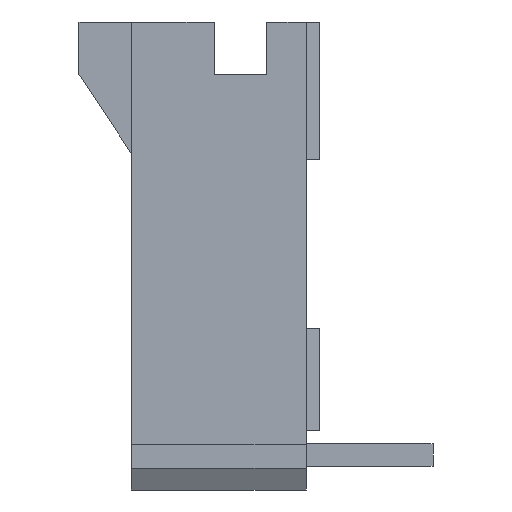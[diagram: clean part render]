
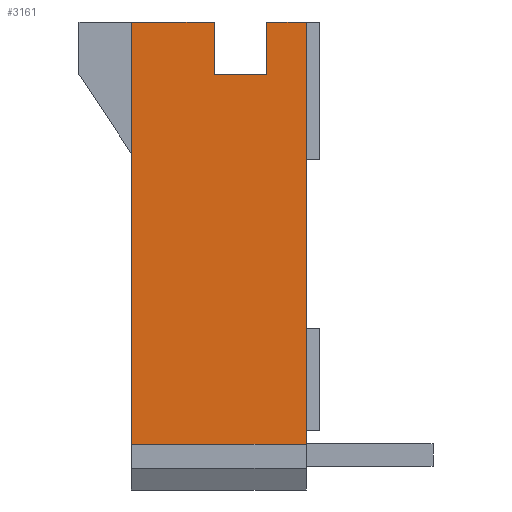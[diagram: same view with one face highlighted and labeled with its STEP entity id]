
A CAD part, left-side view. The second image highlights one B-rep face of the part: STEP entity #3161.
In plain terms, the highlighted planar face has unit normal (-1, 0, 0).
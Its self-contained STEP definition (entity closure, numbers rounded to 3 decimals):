
#134=DIRECTION('',(0.,0.,1.));
#135=VECTOR('',#134,1.52);
#136=CARTESIAN_POINT('',(-11.365,0.13,-1.52));
#137=LINE('',#136,#135);
#138=DIRECTION('',(0.,1.,0.));
#139=VECTOR('',#138,1.52);
#140=CARTESIAN_POINT('',(-11.365,-1.39,-1.52));
#141=LINE('',#140,#139);
#142=DIRECTION('',(0.,0.,-1.));
#143=VECTOR('',#142,1.52);
#144=CARTESIAN_POINT('',(-11.365,-1.39,0.));
#145=LINE('',#144,#143);
#146=DIRECTION('',(0.,-1.,0.));
#147=VECTOR('',#146,1.15);
#148=CARTESIAN_POINT('',(-11.365,-1.39,0.));
#149=LINE('',#148,#147);
#150=DIRECTION('',(0.,0.,-1.));
#151=VECTOR('',#150,12.255);
#152=CARTESIAN_POINT('',(-11.365,-2.54,0.));
#153=LINE('',#152,#151);
#154=DIRECTION('',(0.,1.,0.));
#155=VECTOR('',#154,5.08);
#156=CARTESIAN_POINT('',(-11.365,-2.54,-12.255));
#157=LINE('',#156,#155);
#158=DIRECTION('',(0.,-1.,0.));
#159=VECTOR('',#158,2.41);
#160=CARTESIAN_POINT('',(-11.365,2.54,0.));
#161=LINE('',#160,#159);
#2028=DIRECTION('',(0.,0.,-1.));
#2029=VECTOR('',#2028,12.255);
#2030=CARTESIAN_POINT('',(-11.365,2.54,0.));
#2031=LINE('',#2030,#2029);
#2478=CARTESIAN_POINT('',(-11.365,-2.54,0.));
#2479=CARTESIAN_POINT('',(-11.365,-2.54,-12.255));
#2480=VERTEX_POINT('',#2478);
#2481=VERTEX_POINT('',#2479);
#2484=CARTESIAN_POINT('',(-11.365,0.13,-1.52));
#2485=CARTESIAN_POINT('',(-11.365,0.13,0.));
#2486=VERTEX_POINT('',#2484);
#2487=VERTEX_POINT('',#2485);
#2516=CARTESIAN_POINT('',(-11.365,-1.39,0.));
#2517=CARTESIAN_POINT('',(-11.365,-1.39,-1.52));
#2518=VERTEX_POINT('',#2516);
#2519=VERTEX_POINT('',#2517);
#2576=CARTESIAN_POINT('',(-11.365,2.54,0.));
#2577=VERTEX_POINT('',#2576);
#2598=CARTESIAN_POINT('',(-11.365,2.54,-12.255));
#2599=VERTEX_POINT('',#2598);
#3138=CARTESIAN_POINT('',(-11.365,0.,0.));
#3139=DIRECTION('',(1.,0.,0.));
#3140=DIRECTION('',(0.,0.,-1.));
#3141=AXIS2_PLACEMENT_3D('',#3138,#3139,#3140);
#3142=PLANE('',#3141);
#3144=ORIENTED_EDGE('',*,*,#3143,.F.);
#3146=ORIENTED_EDGE('',*,*,#3145,.F.);
#3148=ORIENTED_EDGE('',*,*,#3147,.F.);
#3150=ORIENTED_EDGE('',*,*,#3149,.T.);
#3152=ORIENTED_EDGE('',*,*,#3151,.T.);
#3154=ORIENTED_EDGE('',*,*,#3153,.T.);
#3156=ORIENTED_EDGE('',*,*,#3155,.F.);
#3158=ORIENTED_EDGE('',*,*,#3157,.T.);
#3159=EDGE_LOOP('',(#3144,#3146,#3148,#3150,#3152,#3154,#3156,#3158));
#3160=FACE_OUTER_BOUND('',#3159,.F.);
#3143=EDGE_CURVE('',#2486,#2487,#137,.T.);
#3145=EDGE_CURVE('',#2519,#2486,#141,.T.);
#3147=EDGE_CURVE('',#2518,#2519,#145,.T.);
#3149=EDGE_CURVE('',#2518,#2480,#149,.T.);
#3151=EDGE_CURVE('',#2480,#2481,#153,.T.);
#3153=EDGE_CURVE('',#2481,#2599,#157,.T.);
#3155=EDGE_CURVE('',#2577,#2599,#2031,.T.);
#3157=EDGE_CURVE('',#2577,#2487,#161,.T.);
#3161=ADVANCED_FACE('',(#3160),#3142,.F.);
